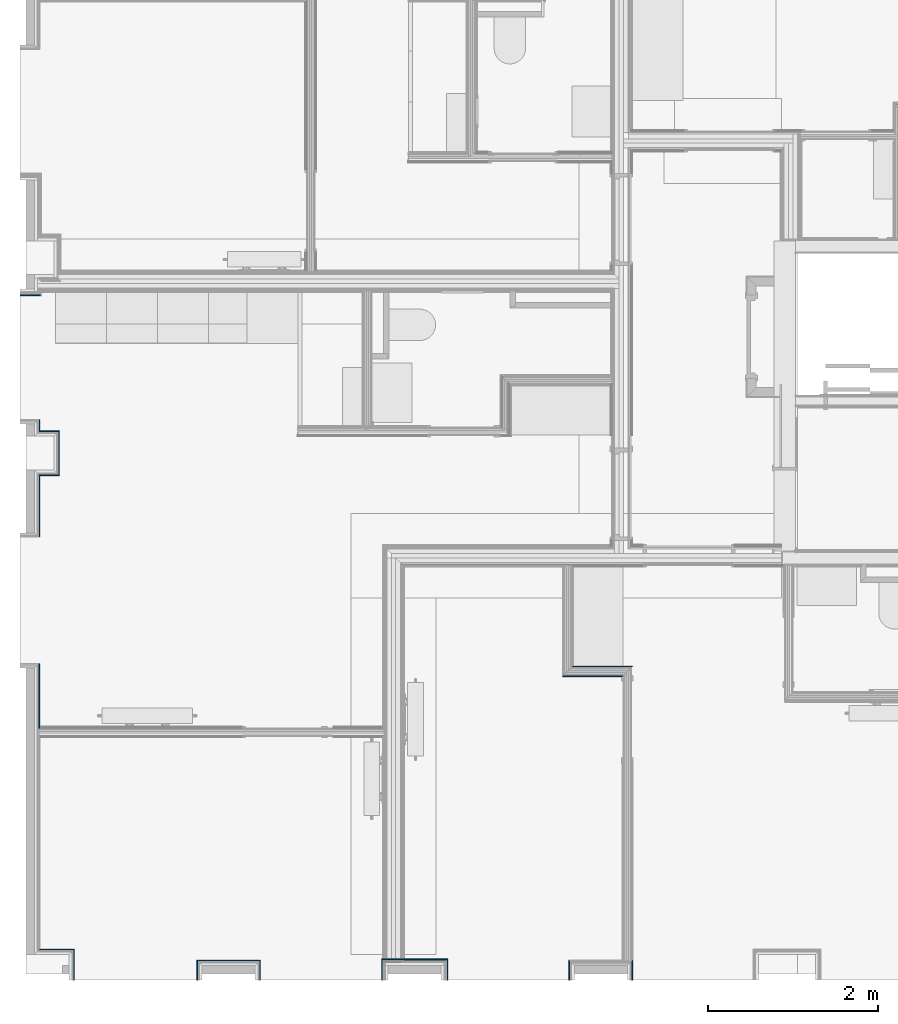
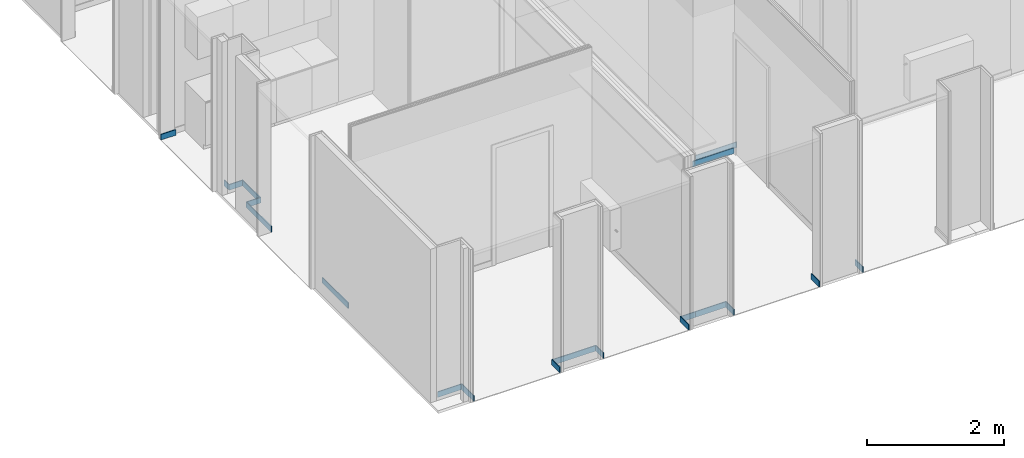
# One storey, part 28 of 65: 20 building element parts, 18 elements without a shape of their own.
"""IFC2X3 building model written with IfcOpenShell, lengths in metres."""

from ifc_helpers import new_model, entity, si_unit, converted_unit, derived_unit, money_unit, direction, frame, frame_2d, origin_with_axes, place, context, subcontext, project, spatial, polyline, rectangle, outline, extrude, material, type_object, element, aggregate, save


model = new_model("IFC2X3")

# Units and contexts
model_context = context("Model", 3, precision=1e-05, world=origin_with_axes(), true_north=direction((0.0, 1.0)))
body_context = subcontext(model_context, "Body", "Model", "MODEL_VIEW", scale=1.0)
ifc_project = project(units=[si_unit("LENGTHUNIT", "METRE"), si_unit("AREAUNIT", "SQUARE_METRE"), si_unit("VOLUMEUNIT", "CUBIC_METRE"), si_unit("ABSORBEDDOSEUNIT", "GRAY"), si_unit("AMOUNTOFSUBSTANCEUNIT", "MOLE"), si_unit("DOSEEQUIVALENTUNIT", "SIEVERT"), si_unit("ELECTRICCAPACITANCEUNIT", "FARAD"), si_unit("ELECTRICCHARGEUNIT", "COULOMB"), si_unit("ELECTRICCONDUCTANCEUNIT", "SIEMENS"), si_unit("ELECTRICCURRENTUNIT", "AMPERE"), si_unit("ELECTRICRESISTANCEUNIT", "OHM"), si_unit("ELECTRICVOLTAGEUNIT", "VOLT"), si_unit("ENERGYUNIT", "JOULE"), si_unit("FORCEUNIT", "NEWTON"), si_unit("FREQUENCYUNIT", "HERTZ"), si_unit("ILLUMINANCEUNIT", "LUX"), si_unit("INDUCTANCEUNIT", "HENRY"), si_unit("LUMINOUSFLUXUNIT", "LUMEN"), si_unit("LUMINOUSINTENSITYUNIT", "CANDELA"), si_unit("MAGNETICFLUXDENSITYUNIT", "TESLA"), si_unit("MAGNETICFLUXUNIT", "WEBER"), si_unit("MASSUNIT", "GRAM"), converted_unit("PLANEANGLEUNIT", "degree", entity("IfcReal", 0.0174532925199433), si_unit("PLANEANGLEUNIT", "RADIAN"), dimensions=[0, 0, 0, 0, 0, 0, 0]), si_unit("POWERUNIT", "WATT"), si_unit("PRESSUREUNIT", "PASCAL"), si_unit("RADIOACTIVITYUNIT", "BECQUEREL"), si_unit("SOLIDANGLEUNIT", "STERADIAN"), si_unit("THERMODYNAMICTEMPERATUREUNIT", "KELVIN"), si_unit("TIMEUNIT", "SECOND"), derived_unit("ACCELERATIONUNIT", [(si_unit("LENGTHUNIT", "METRE"), 1), (si_unit("TIMEUNIT", "SECOND"), -2)]), derived_unit("ANGULARVELOCITYUNIT", [(converted_unit("PLANEANGLEUNIT", "degree", entity("IfcReal", 0.0174532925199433), si_unit("PLANEANGLEUNIT", "RADIAN"), dimensions=[0, 0, 0, 0, 0, 0, 0]), 1), (si_unit("TIMEUNIT", "SECOND"), -1)]), derived_unit("CURVATUREUNIT", [(converted_unit("PLANEANGLEUNIT", "degree", entity("IfcReal", 0.0174532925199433), si_unit("PLANEANGLEUNIT", "RADIAN"), dimensions=[0, 0, 0, 0, 0, 0, 0]), 1), (si_unit("LENGTHUNIT", "METRE"), -1)]), derived_unit("DYNAMICVISCOSITYUNIT", [(si_unit("PRESSUREUNIT", "PASCAL"), 1), (si_unit("TIMEUNIT", "SECOND"), 1)]), derived_unit("HEATFLUXDENSITYUNIT", [(si_unit("POWERUNIT", "WATT"), 1), (si_unit("LENGTHUNIT", "METRE"), -2)]), derived_unit("HEATINGVALUEUNIT", [(si_unit("ENERGYUNIT", "JOULE"), 1), (si_unit("MASSUNIT", "GRAM"), -1)]), derived_unit("INTEGERCOUNTRATEUNIT", [(si_unit("TIMEUNIT", "SECOND"), -1)]), derived_unit("IONCONCENTRATIONUNIT", [(si_unit("MASSUNIT", "GRAM"), 1), (si_unit("VOLUMEUNIT", "CUBIC_METRE"), -1)]), derived_unit("ISOTHERMALMOISTURECAPACITYUNIT", [(si_unit("VOLUMEUNIT", "CUBIC_METRE"), 1), (si_unit("MASSUNIT", "GRAM"), -1)]), derived_unit("KINEMATICVISCOSITYUNIT", [(si_unit("AREAUNIT", "SQUARE_METRE"), 1), (si_unit("TIMEUNIT", "SECOND"), -1)]), derived_unit("LINEARFORCEUNIT", [(si_unit("FORCEUNIT", "NEWTON"), 1), (si_unit("LENGTHUNIT", "METRE"), -1)]), derived_unit("LINEARMOMENTUNIT", [(si_unit("FORCEUNIT", "NEWTON"), 1), (si_unit("LENGTHUNIT", "METRE"), -1)]), derived_unit("LINEARSTIFFNESSUNIT", [(si_unit("FORCEUNIT", "NEWTON"), 1), (si_unit("LENGTHUNIT", "METRE"), -1)]), derived_unit("LINEARVELOCITYUNIT", [(si_unit("LENGTHUNIT", "METRE"), 1), (si_unit("TIMEUNIT", "SECOND"), -1)]), derived_unit("LUMINOUSINTENSITYDISTRIBUTIONUNIT", [(si_unit("LUMINOUSINTENSITYUNIT", "CANDELA"), 1), (si_unit("LUMINOUSFLUXUNIT", "LUMEN"), -1)]), derived_unit("MASSDENSITYUNIT", [(si_unit("MASSUNIT", "GRAM"), 1), (si_unit("VOLUMEUNIT", "CUBIC_METRE"), -1)]), derived_unit("MASSFLOWRATEUNIT", [(si_unit("MASSUNIT", "GRAM"), 1), (si_unit("TIMEUNIT", "SECOND"), -1)]), derived_unit("MASSPERLENGTHUNIT", [(si_unit("MASSUNIT", "GRAM"), 1), (si_unit("LENGTHUNIT", "METRE"), -1)]), derived_unit("MODULUSOFELASTICITYUNIT", [(si_unit("FORCEUNIT", "NEWTON"), 1), (si_unit("AREAUNIT", "SQUARE_METRE"), -1)]), derived_unit("MODULUSOFLINEARSUBGRADEREACTIONUNIT", [(si_unit("FORCEUNIT", "NEWTON"), 1), (si_unit("LENGTHUNIT", "METRE"), -2)]), derived_unit("MODULUSOFROTATIONALSUBGRADEREACTIONUNIT", [(si_unit("FORCEUNIT", "NEWTON"), 1), (si_unit("LENGTHUNIT", "METRE"), 1)]), derived_unit("MODULUSOFSUBGRADEREACTIONUNIT", [(si_unit("FORCEUNIT", "NEWTON"), 1), (si_unit("VOLUMEUNIT", "CUBIC_METRE"), -1)]), derived_unit("MOISTUREDIFFUSIVITYUNIT", [(si_unit("VOLUMEUNIT", "CUBIC_METRE"), 1), (si_unit("TIMEUNIT", "SECOND"), -1)]), derived_unit("MOLECULARWEIGHTUNIT", [(si_unit("MASSUNIT", "GRAM"), 1), (si_unit("AMOUNTOFSUBSTANCEUNIT", "MOLE"), -1)]), derived_unit("PLANARFORCEUNIT", [(si_unit("FORCEUNIT", "NEWTON"), 1), (si_unit("LENGTHUNIT", "METRE"), -2)]), derived_unit("ROTATIONALFREQUENCYUNIT", [(si_unit("TIMEUNIT", "SECOND"), -1)]), derived_unit("ROTATIONALMASSUNIT", [(si_unit("MASSUNIT", "GRAM"), 1), (si_unit("LENGTHUNIT", "METRE"), 2)]), derived_unit("ROTATIONALSTIFFNESSUNIT", [(si_unit("FORCEUNIT", "NEWTON"), 1), (si_unit("LENGTHUNIT", "METRE"), 1), (converted_unit("PLANEANGLEUNIT", "degree", entity("IfcReal", 0.0174532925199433), si_unit("PLANEANGLEUNIT", "RADIAN"), dimensions=[0, 0, 0, 0, 0, 0, 0]), -1)]), derived_unit("SECTIONAREAINTEGRALUNIT", [(si_unit("LENGTHUNIT", "METRE"), 5)]), derived_unit("SECTIONMODULUSUNIT", [(si_unit("LENGTHUNIT", "METRE"), 3)]), derived_unit("SHEARMODULUSUNIT", [(si_unit("FORCEUNIT", "NEWTON"), 1), (si_unit("AREAUNIT", "SQUARE_METRE"), -1)]), derived_unit("SOUNDPOWERUNIT", [(si_unit("ENERGYUNIT", "JOULE"), 1), (si_unit("TIMEUNIT", "SECOND"), -1)]), derived_unit("SPECIFICHEATCAPACITYUNIT", [(si_unit("FORCEUNIT", "NEWTON"), 1), (si_unit("MASSUNIT", "GRAM"), -1), (si_unit("THERMODYNAMICTEMPERATUREUNIT", "KELVIN"), -1)]), derived_unit("TEMPERATUREGRADIENTUNIT", [(si_unit("THERMODYNAMICTEMPERATUREUNIT", "KELVIN"), 1), (si_unit("LENGTHUNIT", "METRE"), -1)]), derived_unit("THERMALADMITTANCEUNIT", [(si_unit("POWERUNIT", "WATT"), 1), (si_unit("AREAUNIT", "SQUARE_METRE"), -1), (si_unit("THERMODYNAMICTEMPERATUREUNIT", "KELVIN"), -1)]), derived_unit("THERMALCONDUCTANCEUNIT", [(si_unit("POWERUNIT", "WATT"), 1), (si_unit("LENGTHUNIT", "METRE"), -1), (si_unit("THERMODYNAMICTEMPERATUREUNIT", "KELVIN"), -1)]), derived_unit("THERMALEXPANSIONCOEFFICIENTUNIT", [(si_unit("THERMODYNAMICTEMPERATUREUNIT", "KELVIN"), -1)]), derived_unit("THERMALRESISTANCEUNIT", [(si_unit("AREAUNIT", "SQUARE_METRE"), 1), (si_unit("POWERUNIT", "WATT"), -1)]), derived_unit("THERMALTRANSMITTANCEUNIT", [(si_unit("POWERUNIT", "WATT"), 1), (si_unit("AREAUNIT", "SQUARE_METRE"), -1), (si_unit("THERMODYNAMICTEMPERATUREUNIT", "KELVIN"), -1)]), derived_unit("TORQUEUNIT", [(si_unit("FORCEUNIT", "NEWTON"), 1), (si_unit("LENGTHUNIT", "METRE"), 1)]), derived_unit("VAPORPERMEABILITYUNIT", [(si_unit("MASSUNIT", "GRAM"), 1), (si_unit("TIMEUNIT", "SECOND"), -1)]), derived_unit("VOLUMETRICFLOWRATEUNIT", [(si_unit("VOLUMEUNIT", "CUBIC_METRE"), 1), (si_unit("TIMEUNIT", "SECOND"), -1)]), derived_unit("WARPINGCONSTANTUNIT", [(si_unit("LENGTHUNIT", "METRE"), 6)]), derived_unit("WARPINGMOMENTUNIT", [(si_unit("FORCEUNIT", "NEWTON"), 1), (si_unit("LENGTHUNIT", "METRE"), 2)]), money_unit("GBP")], contexts=[model_context])

# Site, building, storey
site_placement = place(None, origin_with_axes())
site = spatial("IfcSite", under=ifc_project, at=site_placement, Name="Site", CompositionType="ELEMENT")
building_placement = place(site_placement, origin_with_axes())
building = spatial("IfcBuilding", under=site, at=building_placement, Name="Building01", CompositionType="ELEMENT")
storey_placement = place(building_placement, frame((0.0, 0.0, 8.64), z_axis=(0.0, 0.0, 1.0), x_axis=(1.0, 0.0, 0.0)))
storey = spatial("IfcBuildingStorey", under=building, at=storey_placement, Name="2F", CompositionType="ELEMENT", Elevation=8.64)

# Wall, building element part
wall_type_1 = type_object("IfcWallType", Name="SHE_A-Walls_Type06d_ExternalWallInsulation_48mm", PredefinedType="NOTDEFINED")
wall_1_placement = place(storey_placement, frame((0.27, 6.64418, 0.0), z_axis=(0.0, 0.0, 1.0), x_axis=(0.0, -1.0, 0.0)))
wall_1 = element("IfcWall", 1, at=wall_1_placement, inside=storey, type_object=wall_type_1, Name="6D", ObjectType="SHE_A-Walls_Type06d_ExternalWallInsulation_48mm")
ifc_material = material(Name="A_BSUK_Walls_Timber")
building_element_part_1_placement = place(wall_1_placement, origin_with_axes())
building_element_part_1 = element("IfcBuildingElementPart", 2, at=building_element_part_1_placement, material=ifc_material, Name="3", context=body_context, shape_type="SweptSolid", body=[
    extrude(outline(polyline([(0.08118, 0.063), (-0.048, 0.063), (-0.048, 0.048), (0.09618, 0.048), (0.08118, 0.063)])), frame((0.0, 0.0, 0.015), z_axis=(0.0, 0.0, 1.0), x_axis=(1.0, 0.0, 0.0)), (0.0, 0.0, 1.0), 0.1),
])
aggregate(wall_1, [building_element_part_1])

wall_2_placement = place(storey_placement, frame((0.27, 6.5, 0.0), z_axis=(0.0, 0.0, 1.0), x_axis=(1.0, 0.0, 0.0)))
wall_2 = element("IfcWall", 3, at=wall_2_placement, inside=storey, type_object=wall_type_1, Name="6D", ObjectType="SHE_A-Walls_Type06d_ExternalWallInsulation_48mm")
building_element_part_2_placement = place(wall_2_placement, origin_with_axes())
building_element_part_2 = element("IfcBuildingElementPart", 4, at=building_element_part_2_placement, material=ifc_material, Name="3", context=body_context, shape_type="SweptSolid", body=[
    extrude(outline(polyline([(0.293, 0.063), (0.063, 0.063), (0.048, 0.048), (0.278, 0.048), (0.293, 0.063)])), frame((0.0, 0.0, 0.015), z_axis=(0.0, 0.0, 1.0), x_axis=(1.0, 0.0, 0.0)), (0.0, 0.0, 1.0), 0.1),
])
aggregate(wall_2, [building_element_part_2])

wall_3_placement = place(storey_placement, frame((0.5, 6.5, 0.0), z_axis=(0.0, 0.0, 1.0), x_axis=(0.0, -1.0, 0.0)))
wall_3 = element("IfcWall", 5, at=wall_3_placement, inside=storey, type_object=wall_type_1, Name="6D", ObjectType="SHE_A-Walls_Type06d_ExternalWallInsulation_48mm")
building_element_part_3_placement = place(wall_3_placement, origin_with_axes())
building_element_part_3 = element("IfcBuildingElementPart", 6, at=building_element_part_3_placement, material=ifc_material, Name="3", context=body_context, shape_type="SweptSolid", body=[
    extrude(outline(polyline([(0.463, 0.063), (-0.063, 0.063), (-0.048, 0.048), (0.448, 0.048), (0.463, 0.063)])), frame((0.0, 0.0, 0.015), z_axis=(0.0, 0.0, 1.0), x_axis=(1.0, 0.0, 0.0)), (0.0, 0.0, 1.0), 0.1),
])
aggregate(wall_3, [building_element_part_3])

wall_4_placement = place(storey_placement, frame((0.5, 6.1, 0.0), z_axis=(0.0, 0.0, 1.0), x_axis=(-1.0, 0.0, 0.0)))
wall_4 = element("IfcWall", 7, at=wall_4_placement, inside=storey, type_object=wall_type_1, Name="6D", ObjectType="SHE_A-Walls_Type06d_ExternalWallInsulation_48mm")
building_element_part_4_placement = place(wall_4_placement, origin_with_axes())
building_element_part_4 = element("IfcBuildingElementPart", 8, at=building_element_part_4_placement, material=ifc_material, Name="3", context=body_context, shape_type="SweptSolid", body=[
    extrude(outline(polyline([(0.167, 0.063), (-0.063, 0.063), (-0.048, 0.048), (0.182, 0.048), (0.167, 0.063)])), frame((0.0, 0.0, 0.015), z_axis=(0.0, 0.0, 1.0), x_axis=(1.0, 0.0, 0.0)), (0.0, 0.0, 1.0), 0.1),
])
aggregate(wall_4, [building_element_part_4])

wall_5_placement = place(storey_placement, frame((0.27, 6.1, 0.0), z_axis=(0.0, 0.0, 1.0), x_axis=(0.0, -1.0, 0.0)))
wall_5 = element("IfcWall", 9, at=wall_5_placement, inside=storey, type_object=wall_type_1, Name="6D", ObjectType="SHE_A-Walls_Type06d_ExternalWallInsulation_48mm")
building_element_part_5_placement = place(wall_5_placement, origin_with_axes())
building_element_part_5 = element("IfcBuildingElementPart", 10, at=building_element_part_5_placement, material=ifc_material, Name="3", context=body_context, shape_type="SweptSolid", body=[
    extrude(outline(polyline([(0.063, 0.063), (0.048, 0.048), (0.785, 0.048), (0.785, 0.063), (0.063, 0.063)])), frame((0.0, 0.0, 0.015), z_axis=(0.0, 0.0, 1.0), x_axis=(1.0, 0.0, 0.0)), (0.0, 0.0, 1.0), 0.1),
])
aggregate(wall_5, [building_element_part_5])

wall_6_placement = place(storey_placement, frame((0.27, 0.4, 0.0), z_axis=(0.0, 0.0, 1.0), x_axis=(1.0, 0.0, 0.0)))
wall_6 = element("IfcWall", 11, at=wall_6_placement, inside=storey, type_object=wall_type_1, Name="6D", ObjectType="SHE_A-Walls_Type06d_ExternalWallInsulation_48mm")
building_element_part_6_placement = place(wall_6_placement, origin_with_axes())
building_element_part_6 = element("IfcBuildingElementPart", 12, at=building_element_part_6_placement, material=ifc_material, Name="3", context=body_context, shape_type="SweptSolid", body=[
    extrude(outline(polyline([(0.47, 0.063), (0.063, 0.063), (0.048, 0.048), (0.455, 0.048), (0.47, 0.063)])), frame((0.0, 0.0, 0.015), z_axis=(0.0, 0.0, 1.0), x_axis=(1.0, 0.0, 0.0)), (0.0, 0.0, 1.0), 0.1),
])
aggregate(wall_6, [building_element_part_6])

wall_7_placement = place(storey_placement, frame((0.677, 0.4, 0.0), z_axis=(0.0, 0.0, 1.0), x_axis=(0.0, -1.0, 0.0)))
wall_7 = element("IfcWall", 13, at=wall_7_placement, inside=storey, type_object=wall_type_1, Name="6D", ObjectType="SHE_A-Walls_Type06d_ExternalWallInsulation_48mm")
building_element_part_7_placement = place(wall_7_placement, origin_with_axes())
building_element_part_7 = element("IfcBuildingElementPart", 14, at=building_element_part_7_placement, material=ifc_material, Name="3", context=body_context, shape_type="SweptSolid", body=[
    extrude(outline(polyline([(-0.063, 0.063), (-0.048, 0.048), (0.3, 0.048), (0.3, 0.063), (-0.063, 0.063)])), frame((0.0, 0.0, 0.015), z_axis=(0.0, 0.0, 1.0), x_axis=(1.0, 0.0, 0.0)), (0.0, 0.0, 1.0), 0.1),
])
aggregate(wall_7, [building_element_part_7])

wall_8_placement = place(storey_placement, frame((2.243, 0.1, 0.0), z_axis=(0.0, 0.0, 1.0), x_axis=(0.0, 1.0, 0.0)))
wall_8 = element("IfcWall", 15, at=wall_8_placement, inside=storey, type_object=wall_type_1, Name="6D", ObjectType="SHE_A-Walls_Type06d_ExternalWallInsulation_48mm")
building_element_part_8_placement = place(wall_8_placement, origin_with_axes())
building_element_part_8 = element("IfcBuildingElementPart", 16, at=building_element_part_8_placement, material=ifc_material, Name="3", context=body_context, shape_type="SweptSolid", body=[
    extrude(outline(polyline([(0.233, 0.063), (0.0, 0.063), (0.0, 0.048), (0.218, 0.048), (0.233, 0.063)])), frame((0.0, 0.0, 0.015), z_axis=(0.0, 0.0, 1.0), x_axis=(1.0, 0.0, 0.0)), (0.0, 0.0, 1.0), 0.1),
])
aggregate(wall_8, [building_element_part_8])

wall_9_placement = place(storey_placement, frame((2.243, 0.27, 0.0), z_axis=(0.0, 0.0, 1.0), x_axis=(1.0, 0.0, 0.0)))
wall_9 = element("IfcWall", 17, at=wall_9_placement, inside=storey, type_object=wall_type_1, Name="6D", ObjectType="SHE_A-Walls_Type06d_ExternalWallInsulation_48mm")
building_element_part_9_placement = place(wall_9_placement, origin_with_axes())
building_element_part_9 = element("IfcBuildingElementPart", 18, at=building_element_part_9_placement, material=ifc_material, Name="3", context=body_context, shape_type="SweptSolid", body=[
    extrude(outline(polyline([(0.687, 0.063), (-0.063, 0.063), (-0.048, 0.048), (0.672, 0.048), (0.687, 0.063)])), frame((0.0, 0.0, 0.015), z_axis=(0.0, 0.0, 1.0), x_axis=(1.0, 0.0, 0.0)), (0.0, 0.0, 1.0), 0.1),
])
aggregate(wall_9, [building_element_part_9])

wall_10_placement = place(storey_placement, frame((2.867, 0.27, 0.0), z_axis=(0.0, 0.0, 1.0), x_axis=(0.0, -1.0, 0.0)))
wall_10 = element("IfcWall", 19, at=wall_10_placement, inside=storey, type_object=wall_type_1, Name="6D", ObjectType="SHE_A-Walls_Type06d_ExternalWallInsulation_48mm")
building_element_part_10_placement = place(wall_10_placement, origin_with_axes())
building_element_part_10 = element("IfcBuildingElementPart", 20, at=building_element_part_10_placement, material=ifc_material, Name="3", context=body_context, shape_type="SweptSolid", body=[
    extrude(outline(polyline([(-0.063, 0.063), (-0.048, 0.048), (0.17, 0.048), (0.17, 0.063), (-0.063, 0.063)])), frame((0.0, 0.0, 0.015), z_axis=(0.0, 0.0, 1.0), x_axis=(1.0, 0.0, 0.0)), (0.0, 0.0, 1.0), 0.1),
])
aggregate(wall_10, [building_element_part_10])

wall_11_placement = place(storey_placement, frame((6.623, 0.1, 0.0), z_axis=(0.0, 0.0, 1.0), x_axis=(0.0, 1.0, 0.0)))
wall_11 = element("IfcWall", 21, at=wall_11_placement, inside=storey, type_object=wall_type_1, Name="6D", ObjectType="SHE_A-Walls_Type06d_ExternalWallInsulation_48mm")
building_element_part_11_placement = place(wall_11_placement, origin_with_axes())
building_element_part_11 = element("IfcBuildingElementPart", 22, at=building_element_part_11_placement, material=ifc_material, Name="3", context=body_context, shape_type="SweptSolid", body=[
    extrude(outline(polyline([(0.233, 0.063), (0.0, 0.063), (0.0, 0.048), (0.218, 0.048), (0.233, 0.063)])), frame((0.0, 0.0, 0.015), z_axis=(0.0, 0.0, 1.0), x_axis=(1.0, 0.0, 0.0)), (0.0, 0.0, 1.0), 0.1),
])
aggregate(wall_11, [building_element_part_11])

wall_12_placement = place(storey_placement, frame((7.247, 0.27, 0.0), z_axis=(0.0, 0.0, 1.0), x_axis=(0.0, -1.0, 0.0)))
wall_12 = element("IfcWall", 23, at=wall_12_placement, inside=storey, type_object=wall_type_1, Name="6D", ObjectType="SHE_A-Walls_Type06d_ExternalWallInsulation_48mm")
building_element_part_12_placement = place(wall_12_placement, origin_with_axes())
building_element_part_12 = element("IfcBuildingElementPart", 24, at=building_element_part_12_placement, material=ifc_material, Name="3", context=body_context, shape_type="SweptSolid", body=[
    extrude(outline(polyline([(-0.063, 0.063), (-0.048, 0.048), (0.17, 0.048), (0.17, 0.063), (-0.063, 0.063)])), frame((0.0, 0.0, 0.015), z_axis=(0.0, 0.0, 1.0), x_axis=(1.0, 0.0, 0.0)), (0.0, 0.0, 1.0), 0.1),
])
aggregate(wall_12, [building_element_part_12])

wall_13_placement = place(storey_placement, frame((0.27, 3.77418, 0.0), z_axis=(0.0, 0.0, 1.0), x_axis=(0.0, -1.0, 0.0)))
wall_13 = element("IfcWall", 25, at=wall_13_placement, inside=storey, type_object=wall_type_1, Name="6D", ObjectType="SHE_A-Walls_Type06d_ExternalWallInsulation_48mm")
building_element_part_13_placement = place(wall_13_placement, origin_with_axes())
building_element_part_13 = element("IfcBuildingElementPart", 26, at=building_element_part_13_placement, material=ifc_material, Name="3", context=body_context, shape_type="SweptSolid", body=[
    extrude(rectangle(XDim=0.756894, YDim=0.015, at=frame_2d((0.330447, 0.0555), x_axis=(-1.0, 0.0))), frame((0.0, 0.0, 0.015), z_axis=(0.0, 0.0, 1.0), x_axis=(1.0, 0.0, 0.0)), (0.0, 0.0, 1.0), 0.1),
])
aggregate(wall_13, [building_element_part_13])

# Wall, building element parts
wall_type_2 = type_object("IfcWallType", Name="SHE_A-Walls_Type05a_Partition_95mm_tall", PredefinedType="NOTDEFINED")
wall_14_placement = place(storey_placement, frame((7.235, 3.72, 0.0), z_axis=(0.0, 0.0, 1.0), x_axis=(-1.0, 0.0, 0.0)))
wall_14 = element("IfcWall", 27, at=wall_14_placement, inside=storey, type_object=wall_type_2, Name="5A", ObjectType="SHE_A-Walls_Type05a_Partition_95mm_tall")
placement_1 = place(wall_14_placement, origin_with_axes())
building_element_part_14 = element("IfcBuildingElementPart", 28, at=placement_1, material=ifc_material, Name="1", context=body_context, shape_type="SweptSolid", body=[
    extrude(outline(polyline([(0.64, -0.06), (-0.06, -0.06), (-0.075, -0.075), (0.625, -0.075), (0.64, -0.06)])), frame((0.0, 0.0, 0.015), z_axis=(0.0, 0.0, 1.0), x_axis=(1.0, 0.0, 0.0)), (0.0, 0.0, 1.0), 0.1),
])
building_element_part_15 = element("IfcBuildingElementPart", 29, at=placement_1, material=ifc_material, Name="7", context=body_context, shape_type="SweptSolid", body=[
    extrude(outline(polyline([(0.75, 0.05), (0.05, 0.05), (0.035, 0.035), (0.735, 0.035), (0.75, 0.05)])), frame((0.0, 0.0, 0.015), z_axis=(0.0, 0.0, 1.0), x_axis=(1.0, 0.0, 0.0)), (0.0, 0.0, 1.0), 0.1),
])
aggregate(wall_14, [building_element_part_14, building_element_part_15])

# Wall, building element part
wall_type_3 = type_object("IfcWallType", Name="SHE_A-Walls_Type06f_ExternalWallInsulation_48+15mm", PredefinedType="NOTDEFINED")
wall_15_placement = place(storey_placement, frame((0.27, 8.233, 0.0), z_axis=(0.0, 0.0, 1.0), x_axis=(-1.0, 0.0, 0.0)))
wall_15 = element("IfcWall", 30, at=wall_15_placement, inside=storey, type_object=wall_type_3, Name="6F", ObjectType="SHE_A-Walls_Type06f_ExternalWallInsulation_48+15mm")
building_element_part_16_placement = place(wall_15_placement, origin_with_axes())
building_element_part_16 = element("IfcBuildingElementPart", 31, at=building_element_part_16_placement, material=ifc_material, Name="4", context=body_context, shape_type="SweptSolid", body=[
    extrude(outline(polyline([(0.17, 0.078), (-0.078, 0.078), (-0.063, 0.063), (0.17, 0.063), (0.17, 0.078)])), frame((0.0, 0.0, 0.015), z_axis=(0.0, 0.0, 1.0), x_axis=(1.0, 0.0, 0.0)), (0.0, 0.0, 1.0), 0.1),
])
aggregate(wall_15, [building_element_part_16])

wall_16_placement = place(storey_placement, frame((4.433, 0.27, 0.0), z_axis=(0.0, 0.0, 1.0), x_axis=(0.0, -1.0, 0.0)))
wall_16 = element("IfcWall", 32, at=wall_16_placement, inside=storey, type_object=wall_type_3, Name="6F", ObjectType="SHE_A-Walls_Type06f_ExternalWallInsulation_48+15mm")
building_element_part_17_placement = place(wall_16_placement, origin_with_axes())
building_element_part_17 = element("IfcBuildingElementPart", 33, at=building_element_part_17_placement, material=ifc_material, Name="1", context=body_context, shape_type="SweptSolid", body=[
    extrude(outline(polyline([(0.17, -0.063), (-0.063, -0.063), (-0.078, -0.078), (0.17, -0.078), (0.17, -0.063)])), frame((0.0, 0.0, 0.015), z_axis=(0.0, 0.0, 1.0), x_axis=(1.0, 0.0, 0.0)), (0.0, 0.0, 1.0), 0.1),
])
aggregate(wall_16, [building_element_part_17])

# Wall, building element parts
wall_17_placement = place(storey_placement, frame((5.093124, 0.27, 0.0), z_axis=(0.0, 0.0, 1.0), x_axis=(-1.0, 0.0, 0.0)))
wall_17 = element("IfcWall", 34, at=wall_17_placement, inside=storey, type_object=wall_type_3, Name="6F", ObjectType="SHE_A-Walls_Type06f_ExternalWallInsulation_48+15mm")
placement_2 = place(wall_17_placement, origin_with_axes())
building_element_part_18 = element("IfcBuildingElementPart", 35, at=placement_2, material=ifc_material, Name="1", context=body_context, shape_type="SweptSolid", body=[
    extrude(outline(polyline([(0.483124, -0.063), (-0.027, -0.063), (-0.042, -0.078), (0.468124, -0.078), (0.483124, -0.063)])), frame((0.0, 0.0, 0.015), z_axis=(0.0, 0.0, 1.0), x_axis=(1.0, 0.0, 0.0)), (0.0, 0.0, 1.0), 0.1),
])
building_element_part_19 = element("IfcBuildingElementPart", 36, at=placement_2, material=ifc_material, Name="2", context=body_context, shape_type="SweptSolid", body=[
    extrude(outline(polyline([(0.723124, -0.063), (0.483124, -0.063), (0.468124, -0.078), (0.738124, -0.078), (0.723124, -0.063)])), frame((0.0, 0.0, 0.015), z_axis=(0.0, 0.0, 1.0), x_axis=(1.0, 0.0, 0.0)), (0.0, 0.0, 1.0), 0.1),
])
aggregate(wall_17, [building_element_part_18, building_element_part_19])

# Wall, building element part
wall_18_placement = place(storey_placement, frame((5.057124, 0.27, 0.0), z_axis=(0.0, 0.0, 1.0), x_axis=(0.0, 1.0, 0.0)))
wall_18 = element("IfcWall", 37, at=wall_18_placement, inside=storey, type_object=wall_type_3, Name="6F", ObjectType="SHE_A-Walls_Type06f_ExternalWallInsulation_48+15mm")
building_element_part_20_placement = place(wall_18_placement, origin_with_axes())
building_element_part_20 = element("IfcBuildingElementPart", 38, at=building_element_part_20_placement, material=ifc_material, Name="1", context=body_context, shape_type="SweptSolid", body=[
    extrude(outline(polyline([(-0.17, -0.078), (0.078, -0.078), (0.063, -0.063), (-0.17, -0.063), (-0.17, -0.078)])), frame((0.0, 0.0, 0.015), z_axis=(0.0, 0.0, 1.0), x_axis=(1.0, 0.0, 0.0)), (0.0, 0.0, 1.0), 0.1),
])
aggregate(wall_18, [building_element_part_20])

save(model, "model.ifc")
